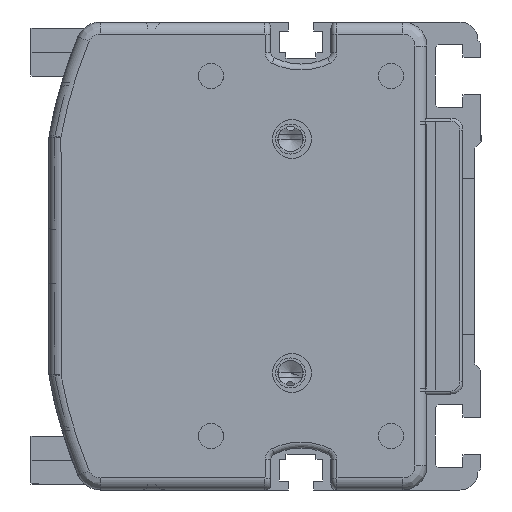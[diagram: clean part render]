
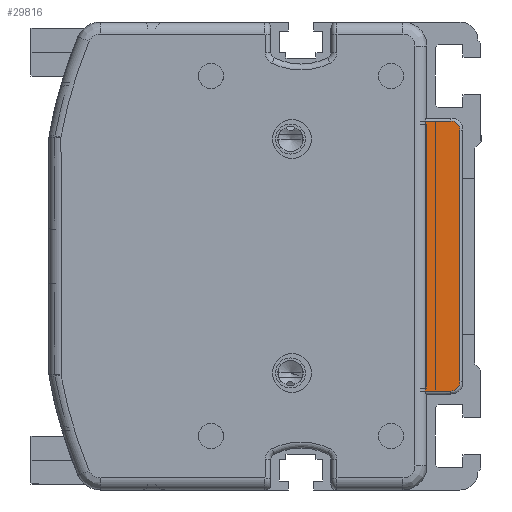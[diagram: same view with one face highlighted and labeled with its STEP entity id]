
A CAD part, left-side view. The second image highlights one B-rep face of the part: STEP entity #29816.
In plain terms, the highlighted planar face has unit normal (-1, 0, 0).
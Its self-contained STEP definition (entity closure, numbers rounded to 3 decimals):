
#24369=DIRECTION('',(0.,0.,-1.));
#24370=VECTOR('',#24369,45.);
#24371=CARTESIAN_POINT('',(-2.,9.268,22.5));
#24372=LINE('',#24371,#24370);
#24404=CARTESIAN_POINT('',(-2.,5.,21.));
#24405=DIRECTION('',(1.,0.,0.));
#24406=DIRECTION('',(0.,0.,1.));
#24407=AXIS2_PLACEMENT_3D('',#24404,#24405,#24406);
#24409=CARTESIAN_POINT('',(-2.,5.,-21.));
#24410=DIRECTION('',(1.,0.,0.));
#24411=DIRECTION('',(0.,-1.,0.));
#24412=AXIS2_PLACEMENT_3D('',#24409,#24410,#24411);
#24418=DIRECTION('',(0.,-1.,0.));
#24419=VECTOR('',#24418,4.268);
#24420=CARTESIAN_POINT('',(-2.,9.268,-22.5));
#24421=LINE('',#24420,#24419);
#24954=DIRECTION('',(0.,0.,1.));
#24955=VECTOR('',#24954,42.);
#24956=CARTESIAN_POINT('',(-2.,3.5,-21.));
#24957=LINE('',#24956,#24955);
#24977=DIRECTION('',(0.,1.,0.));
#24978=VECTOR('',#24977,4.268);
#24979=CARTESIAN_POINT('',(-2.,5.,22.5));
#24980=LINE('',#24979,#24978);
#28263=CARTESIAN_POINT('',(-2.,9.268,22.5));
#28264=CARTESIAN_POINT('',(-2.,9.268,-22.5));
#28265=VERTEX_POINT('',#28263);
#28266=VERTEX_POINT('',#28264);
#28276=CARTESIAN_POINT('',(-2.,5.,-22.5));
#28277=VERTEX_POINT('',#28276);
#28278=CARTESIAN_POINT('',(-2.,3.5,-21.));
#28279=VERTEX_POINT('',#28278);
#28280=CARTESIAN_POINT('',(-2.,3.5,21.));
#28281=VERTEX_POINT('',#28280);
#28282=CARTESIAN_POINT('',(-2.,5.,22.5));
#28283=VERTEX_POINT('',#28282);
#29798=CARTESIAN_POINT('',(-2.,6.384,0.));
#29799=DIRECTION('',(1.,0.,0.));
#29800=DIRECTION('',(0.,0.,-1.));
#29801=AXIS2_PLACEMENT_3D('',#29798,#29799,#29800);
#29802=PLANE('',#29801);
#29804=ORIENTED_EDGE('',*,*,#29803,.F.);
#29805=ORIENTED_EDGE('',*,*,#29777,.F.);
#29807=ORIENTED_EDGE('',*,*,#29806,.F.);
#29809=ORIENTED_EDGE('',*,*,#29808,.T.);
#29811=ORIENTED_EDGE('',*,*,#29810,.F.);
#29813=ORIENTED_EDGE('',*,*,#29812,.T.);
#29814=EDGE_LOOP('',(#29804,#29805,#29807,#29809,#29811,#29813));
#29815=FACE_OUTER_BOUND('',#29814,.F.);
#29816=ADVANCED_FACE('',(#29815),#29802,.F.);
#24408=CIRCLE('',#24407,1.5);
#24413=CIRCLE('',#24412,1.5);
#29777=EDGE_CURVE('',#28265,#28266,#24372,.T.);
#29803=EDGE_CURVE('',#28266,#28277,#24421,.T.);
#29806=EDGE_CURVE('',#28283,#28265,#24980,.T.);
#29808=EDGE_CURVE('',#28283,#28281,#24408,.T.);
#29810=EDGE_CURVE('',#28279,#28281,#24957,.T.);
#29812=EDGE_CURVE('',#28279,#28277,#24413,.T.);
